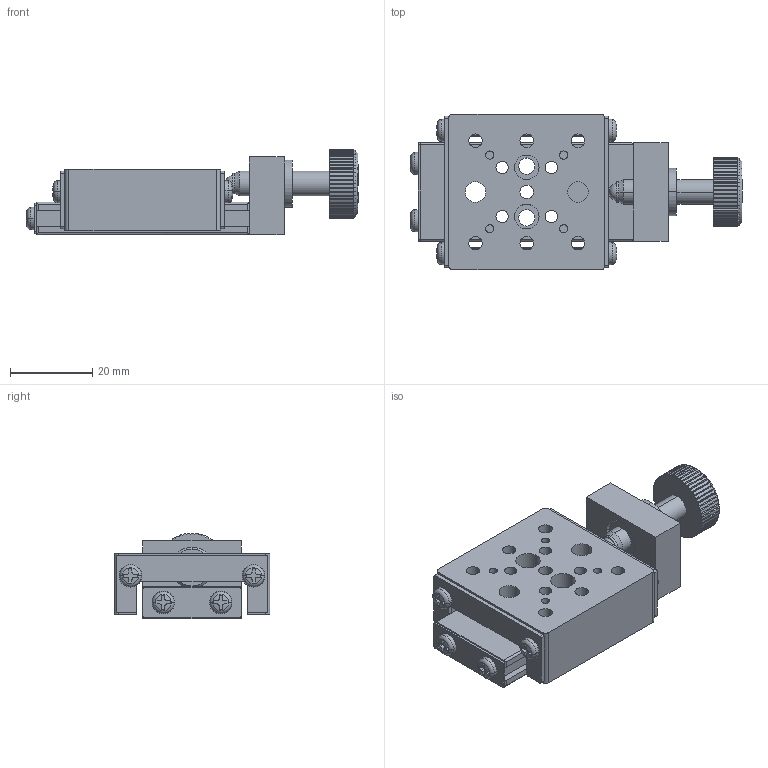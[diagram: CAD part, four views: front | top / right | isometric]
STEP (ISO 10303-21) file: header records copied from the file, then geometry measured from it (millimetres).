
FILE_DESCRIPTION (( 'STEP AP203' ), '1' );
FILE_NAME ('TC38X-05A.STEP', '2017-02-18T02:30:58', ( '' ), ( '' ), 'SwSTEP 2.0', 'SolidWorks 2012', '' );
FILE_SCHEMA (( 'CONFIG_CONTROL_DESIGN' ));
Length unit declared in the file: millimetre
Products named in the file (1): TC38X-05A
Bounding box: 80.96 x 38 x 20.9 mm (x, y, z)
Surface area: 16445.6 mm2 (no closed solid volume)
Topology: 0 solids, 18 shells, 572 faces, 1705 edges, 1134 vertices
Faces by surface type: plane 287, cylinder 210, cone 30, bspline 19, sphere 14, torus 12
Entity records: 20421 total; most frequent: CARTESIAN_POINT 4869, DIRECTION 3233, ORIENTED_EDGE 3174, EDGE_CURVE 1696, AXIS2_PLACEMENT_3D 1175, VERTEX_POINT 1131, VECTOR 883, LINE 883
